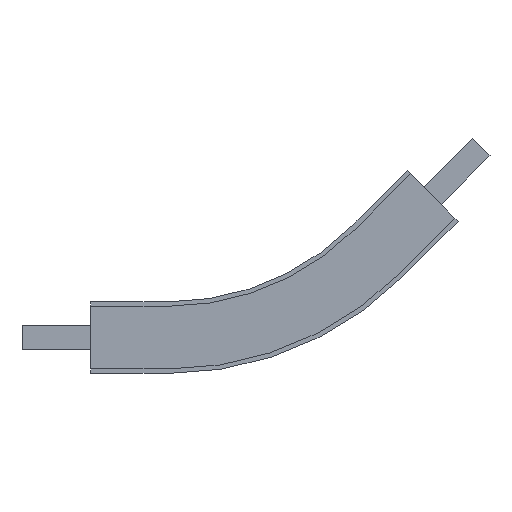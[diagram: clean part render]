
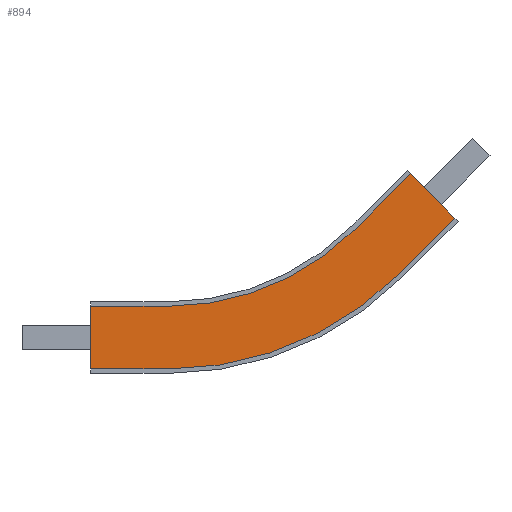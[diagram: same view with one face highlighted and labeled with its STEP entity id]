
A CAD part, front view. The second image highlights one B-rep face of the part: STEP entity #894.
In plain terms, the highlighted planar face has unit normal (0, -1, 0).
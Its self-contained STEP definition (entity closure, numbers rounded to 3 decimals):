
#41=CIRCLE('',#968,332.);
#42=CIRCLE('',#970,268.);
#84=FACE_OUTER_BOUND('',#136,.T.);
#136=EDGE_LOOP('',(#640,#641,#642,#643,#644,#645,#646,#647));
#185=LINE('',#1292,#295);
#187=LINE('',#1298,#297);
#197=LINE('',#1324,#307);
#198=LINE('',#1327,#308);
#199=LINE('',#1328,#309);
#200=LINE('',#1329,#310);
#295=VECTOR('',#1040,10.);
#297=VECTOR('',#1044,10.);
#307=VECTOR('',#1070,10.);
#308=VECTOR('',#1073,10.);
#309=VECTOR('',#1074,10.);
#310=VECTOR('',#1075,10.);
#402=VERTEX_POINT('',#1285);
#405=VERTEX_POINT('',#1290);
#407=VERTEX_POINT('',#1295);
#408=VERTEX_POINT('',#1297);
#410=VERTEX_POINT('',#1303);
#413=VERTEX_POINT('',#1310);
#416=VERTEX_POINT('',#1322);
#417=VERTEX_POINT('',#1326);
#489=EDGE_CURVE('',#402,#405,#185,.T.);
#491=EDGE_CURVE('',#407,#408,#187,.T.);
#496=EDGE_CURVE('',#410,#402,#41,.T.);
#498=EDGE_CURVE('',#413,#407,#42,.T.);
#505=EDGE_CURVE('',#416,#410,#197,.T.);
#506=EDGE_CURVE('',#416,#417,#198,.T.);
#507=EDGE_CURVE('',#408,#405,#199,.T.);
#508=EDGE_CURVE('',#417,#413,#200,.T.);
#640=ORIENTED_EDGE('',*,*,#506,.F.);
#641=ORIENTED_EDGE('',*,*,#505,.T.);
#642=ORIENTED_EDGE('',*,*,#496,.T.);
#643=ORIENTED_EDGE('',*,*,#489,.T.);
#644=ORIENTED_EDGE('',*,*,#507,.F.);
#645=ORIENTED_EDGE('',*,*,#491,.F.);
#646=ORIENTED_EDGE('',*,*,#498,.F.);
#647=ORIENTED_EDGE('',*,*,#508,.F.);
#848=PLANE('',#974);
#894=ADVANCED_FACE('',(#84),#848,.T.);
#968=AXIS2_PLACEMENT_3D('',#1307,#1052,#1053);
#970=AXIS2_PLACEMENT_3D('',#1312,#1057,#1058);
#974=AXIS2_PLACEMENT_3D('',#1325,#1071,#1072);
#1040=DIRECTION('',(0.707,0.,0.707));
#1044=DIRECTION('',(0.707,0.,0.707));
#1052=DIRECTION('center_axis',(0.,-1.,0.));
#1053=DIRECTION('ref_axis',(0.,0.,-1.));
#1057=DIRECTION('center_axis',(0.,-1.,0.));
#1058=DIRECTION('ref_axis',(0.,0.,-1.));
#1070=DIRECTION('',(1.,0.,0.));
#1071=DIRECTION('center_axis',(0.,-1.,0.));
#1072=DIRECTION('ref_axis',(0.,0.,-1.));
#1073=DIRECTION('',(0.,0.,1.));
#1074=DIRECTION('',(0.707,0.,-0.707));
#1075=DIRECTION('',(1.,0.,0.));
#1285=CARTESIAN_POINT('',(314.759,-32.5,65.241));
#1290=CARTESIAN_POINT('',(371.328,-32.5,121.809));
#1292=CARTESIAN_POINT('',(314.759,-32.5,65.241));
#1295=CARTESIAN_POINT('',(269.505,-32.5,110.495));
#1297=CARTESIAN_POINT('',(326.073,-32.5,167.064));
#1298=CARTESIAN_POINT('',(269.505,-32.5,110.495));
#1303=CARTESIAN_POINT('',(80.,-32.5,-32.));
#1307=CARTESIAN_POINT('Origin',(80.,-32.5,300.));
#1310=CARTESIAN_POINT('',(80.,-32.5,32.));
#1312=CARTESIAN_POINT('Origin',(80.,-32.5,300.));
#1322=CARTESIAN_POINT('',(0.,-32.5,-32.));
#1324=CARTESIAN_POINT('',(0.,-32.5,-32.));
#1325=CARTESIAN_POINT('Origin',(0.,-32.5,32.));
#1326=CARTESIAN_POINT('',(0.,-32.5,32.));
#1327=CARTESIAN_POINT('',(0.,-32.5,-32.));
#1328=CARTESIAN_POINT('',(371.328,-32.5,121.809));
#1329=CARTESIAN_POINT('',(0.,-32.5,32.));
